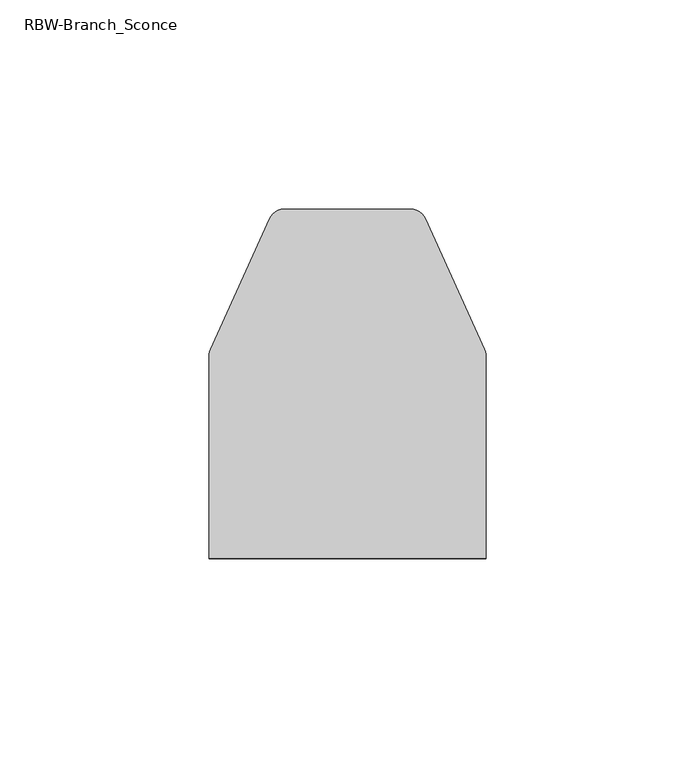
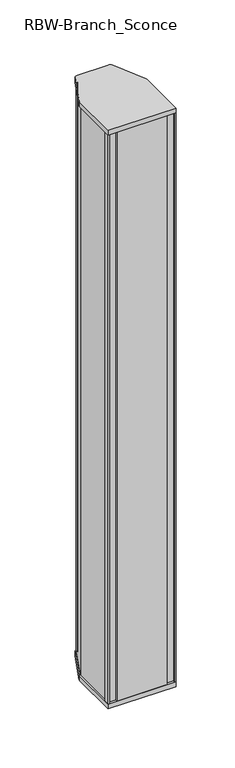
"""IFC4 building model written with IfcOpenShell, lengths in millimetres: light fixture geometry, RBW-Branch_Sconce : BRES-M."""

from ifc_helpers import new_model, si_unit, point, frame, frame_2d, origin, place, context, project, spatial, polyline, circle_curve, trimmed, segment, composite_curve, outline, extrude, source, transform, mapped, element, save
from ifc_brep_helpers import plane_surface, cylinder_surface, revolved_surface, advanced_brep


def rbw_branch_sconce_70b09beb(model_context):
    return source(origin(), model_context, "Body", "SolidModel", [
        extrude(outline(composite_curve([segment(trimmed(circle_curve(frame_2d((-29.1703125, 224.5714396)), 3.96875), [point((-33.1390625, 224.5714396))], [point((-32.7874435, 226.2046388))], False, "CARTESIAN"), True, "CONTINUOUS"), segment(polyline([(-32.7874435, 226.2046388), (-18.6829515, 257.442588)]), True, "CONTINUOUS"), segment(trimmed(circle_curve(frame_2d((-15.0658205, 255.8093887)), 3.96875), [point((-18.6829515, 257.442588))], [point((-15.0658205, 259.7781387))], False, "CARTESIAN"), True, "CONTINUOUS"), segment(polyline([(-15.0658205, 259.7781387), (15.0658205, 259.7781387)]), True, "CONTINUOUS"), segment(trimmed(circle_curve(frame_2d((15.0658205, 255.8093887)), 3.96875), [point((15.0658205, 259.7781387))], [point((18.6829515, 257.442588))], False, "CARTESIAN"), True, "CONTINUOUS"), segment(polyline([(18.6829515, 257.442588), (32.7874435, 226.2046388)]), True, "CONTINUOUS"), segment(trimmed(circle_curve(frame_2d((29.1703125, 224.5714396)), 3.96875), [point((32.7874435, 226.2046388))], [point((33.1390625, 224.5714396))], False, "CARTESIAN"), True, "CONTINUOUS"), segment(polyline([(33.1390625, 224.5714396), (33.1390625, 176.2125), (-33.1390625, 176.2125), (-33.1390625, 224.5714396)]), True, "CONTINUOUS")], self_intersect=False)), frame((0.0, 0.0, 2549.2273437), z_axis=(0.0, 0.0, 1.0), x_axis=(1.0, 0.0, 0.0)), (0.0, 0.0, 1.0), 4.7625),
        extrude(outline(composite_curve([segment(trimmed(circle_curve(frame_2d((-29.1703125, 224.5714396)), 3.96875), [point((-33.1390625, 224.5714396))], [point((-32.7874435, 226.2046388))], False, "CARTESIAN"), True, "CONTINUOUS"), segment(polyline([(-32.7874435, 226.2046388), (-18.6829515, 257.442588)]), True, "CONTINUOUS"), segment(trimmed(circle_curve(frame_2d((-15.0658205, 255.8093887)), 3.96875), [point((-18.6829515, 257.442588))], [point((-15.0658205, 259.7781387))], False, "CARTESIAN"), True, "CONTINUOUS"), segment(polyline([(-15.0658205, 259.7781387), (15.0658205, 259.7781387)]), True, "CONTINUOUS"), segment(trimmed(circle_curve(frame_2d((15.0658205, 255.8093887)), 3.96875), [point((15.0658205, 259.7781387))], [point((18.6829515, 257.442588))], False, "CARTESIAN"), True, "CONTINUOUS"), segment(polyline([(18.6829515, 257.442588), (32.7874435, 226.2046388)]), True, "CONTINUOUS"), segment(trimmed(circle_curve(frame_2d((29.1703125, 224.5714396)), 3.96875), [point((32.7874435, 226.2046388))], [point((33.1390625, 224.5714396))], False, "CARTESIAN"), True, "CONTINUOUS"), segment(polyline([(33.1390625, 224.5714396), (33.1390625, 176.2125), (-33.1390625, 176.2125), (-33.1390625, 224.5714396)]), True, "CONTINUOUS")], self_intersect=False)), frame((0.0, 0.0, 1955.8), z_axis=(0.0, 0.0, 1.0), x_axis=(1.0, 0.0, 0.0)), (0.0, 0.0, 1.0), 4.7625),
        extrude(outline(polyline([(24.6399969, 177.7596923), (24.6399969, 176.2125), (-24.6399969, 176.2125), (-24.6399969, 177.7596923), (24.6399969, 177.7596923)])), frame((0.0, 0.0, 1960.5625), z_axis=(0.0, 0.0, 1.0), x_axis=(1.0, 0.0, 0.0)), (0.0, 0.0, 1.0), 588.6648437),
        extrude(outline(composite_curve([segment(polyline([(-31.110477, 179.9808985), (-31.110477, 224.021969)]), True, "CONTINUOUS"), segment(trimmed(circle_curve(frame_2d((-27.5248794, 224.021969)), 3.5855977), [point((-31.110477, 224.021969))], [point((-30.7964256, 225.4894485))], False, "CARTESIAN"), True, "CONTINUOUS"), segment(polyline([(-30.7964256, 225.4894485), (-16.8462004, 256.5895809)]), True, "CONTINUOUS"), segment(trimmed(circle_curve(frame_2d((-15.0356307, 255.7774347)), 1.984375), [point((-16.8462004, 256.5895809))], [point((-15.0356307, 257.7618097))], False, "CARTESIAN"), True, "CONTINUOUS"), segment(polyline([(-15.0356307, 257.7618097), (15.0356307, 257.7618097)]), True, "CONTINUOUS"), segment(trimmed(circle_curve(frame_2d((15.0356307, 255.7774347)), 1.984375), [point((15.0356307, 257.7618097))], [point((16.8462004, 256.5895809))], False, "CARTESIAN"), True, "CONTINUOUS"), segment(polyline([(16.8462004, 256.5895809), (30.7964256, 225.4894485)]), True, "CONTINUOUS"), segment(trimmed(circle_curve(frame_2d((27.5248794, 224.021969)), 3.5855977), [point((30.7964256, 225.4894485))], [point((31.110477, 224.021969))], False, "CARTESIAN"), True, "CONTINUOUS"), segment(polyline([(31.110477, 224.021969), (31.110477, 179.9808985), (30.1182895, 179.9808985), (30.1182895, 224.021969)]), True, "CONTINUOUS"), segment(trimmed(circle_curve(frame_2d((27.3264419, 224.021969)), 2.7918477), [point((30.1182895, 224.021969))], [point((29.8737602, 225.16459))], True, "CARTESIAN"), True, "CONTINUOUS"), segment(polyline([(29.8737602, 225.16459), (15.923535, 256.2647224)]), True, "CONTINUOUS"), segment(trimmed(circle_curve(frame_2d((14.8371932, 255.7774347)), 1.190625), [point((15.923535, 256.2647224))], [point((14.8371932, 256.9680597))], True, "CARTESIAN"), True, "CONTINUOUS"), segment(polyline([(14.8371932, 256.9680597), (-14.8371932, 256.9680597)]), True, "CONTINUOUS"), segment(trimmed(circle_curve(frame_2d((-14.8371932, 255.7774347)), 1.190625), [point((-14.8371932, 256.9680597))], [point((-15.923535, 256.2647224))], True, "CARTESIAN"), True, "CONTINUOUS"), segment(polyline([(-15.923535, 256.2647224), (-29.8737602, 225.16459)]), True, "CONTINUOUS"), segment(trimmed(circle_curve(frame_2d((-27.3264419, 224.021969)), 2.7918477), [point((-29.8737602, 225.16459))], [point((-30.1182895, 224.021969))], True, "CARTESIAN"), True, "CONTINUOUS"), segment(polyline([(-30.1182895, 224.021969), (-30.1182895, 179.9808985), (-31.110477, 179.9808985)]), True, "CONTINUOUS")], self_intersect=False)), frame((0.0, 0.0, 1960.5625), z_axis=(0.0, 0.0, 1.0), x_axis=(1.0, 0.0, 0.0)), (0.0, 0.0, 1.0), 588.6648437),
        extrude(outline(polyline([(-33.1390625, 176.2125), (-33.1390625, 181.3017242), (-32.0194247, 181.3017242), (-32.0194247, 179.5714034), (-30.0957715, 179.5714034), (-30.0957715, 222.1084753), (30.0957715, 222.1084753), (30.0957715, 179.5714034), (32.0194247, 179.5714034), (32.0194247, 181.3017242), (33.1390625, 181.3017242), (33.1390625, 176.2125), (31.8158534, 176.2125), (31.8158534, 178.2482285), (17.3478991, 178.2482285), (17.3478991, 179.5714034), (28.7725647, 179.5714034), (28.7725647, 220.8148148), (-28.7725647, 220.8148148), (-28.7725647, 179.5714034), (-17.3478991, 179.5714034), (-17.3478991, 178.2482285), (-31.8158534, 178.2482285), (-31.8158534, 176.2125), (-33.1390625, 176.2125)])), frame((0.0, 0.0, 1960.5625), z_axis=(0.0, 0.0, 1.0), x_axis=(1.0, 0.0, 0.0)), (0.0, 0.0, 1.0), 588.6648437),
        advanced_brep(
        [(-27.2864128, 224.2551117, 2549.2273437), (-27.2864128, 222.1084753, 2549.2273437), (-25.6989128, 222.1084753, 2549.2273437), (-25.6989128, 224.0609321, 2549.2273437), (-13.4703808, 251.1441484, 2549.2273437), (-12.3155675, 251.8290085, 2549.2273437), (12.3155675, 251.8290085, 2549.2273437), (13.4153876, 251.1182122, 2549.2273437), (25.6989128, 223.8524826, 2549.2273437), (25.6989128, 222.1084753, 2549.2273437), (27.2864128, 222.1084753, 2549.2273437), (27.2864128, 224.194265, 2549.2273437), (14.862775, 251.7703059, 2549.2273437), (12.3155675, 253.4165085, 2549.2273437), (-12.3155675, 253.4165085, 2549.2273437), (-14.8618241, 251.7724141, 2549.2273437), (-27.2864128, 224.2551117, 1960.5625), (-14.8618241, 251.7724141, 1960.5625), (-12.3155675, 253.4165085, 1960.5625), (12.3155675, 253.4165085, 1960.5625), (14.862775, 251.7703059, 1960.5625), (27.2864128, 224.194265, 1960.5625), (27.2864128, 222.1084753, 1960.5625), (25.6989128, 222.1084753, 1960.5625), (25.6989128, 223.8524826, 1960.5625), (13.4153876, 251.1182122, 1960.5625), (12.3155675, 251.8290085, 1960.5625), (-12.3155675, 251.8290085, 1960.5625), (-13.4149733, 251.1191309, 1960.5625), (-25.6989128, 224.0609321, 1960.5625), (-25.6989128, 222.1084753, 1960.5625), (-27.2864128, 222.1084753, 1960.5625)],
        [
            (0, 1),
            (1, 2),
            (2, 3),
            (3, 4),
            (4, 5, circle_curve(frame((-12.3155675, 250.6227305, 2549.2273437), z_axis=(0.0, 0.0, -1.0), x_axis=(0.0, 1.0, 0.0)), 1.2062779)),
            (5, 6),
            (6, 7, circle_curve(frame((12.3155675, 250.6227305, 2549.2273437), z_axis=(0.0, 0.0, -1.0), x_axis=(0.0, 1.0, 0.0)), 1.2062779)),
            (7, 8),
            (8, 9),
            (9, 10),
            (10, 11),
            (11, 12),
            (12, 13, circle_curve(frame((12.3155675, 250.6227305, 2549.2273437), z_axis=(0.0, 0.0, 1.0), x_axis=(0.0, 1.0, 0.0)), 2.7937779)),
            (13, 14),
            (14, 15, circle_curve(frame((-12.3155675, 250.6227305, 2549.2273437), z_axis=(0.0, 0.0, 1.0), x_axis=(0.0, 1.0, 0.0)), 2.7937779)),
            (15, 0),
            (16, 17),
            (17, 18, circle_curve(frame((-12.3155675, 250.6227305, 1960.5625), z_axis=(0.0, 0.0, -1.0), x_axis=(0.0, 1.0, 0.0)), 2.7937779)),
            (18, 19),
            (19, 20, circle_curve(frame((12.3155675, 250.6227305, 1960.5625), z_axis=(0.0, 0.0, -1.0), x_axis=(0.0, 1.0, 0.0)), 2.7937779)),
            (20, 21),
            (21, 22),
            (22, 23),
            (23, 24),
            (24, 25),
            (25, 26, circle_curve(frame((12.3155675, 250.6227305, 1960.5625), z_axis=(0.0, 0.0, 1.0), x_axis=(0.0, 1.0, 0.0)), 1.2062779)),
            (26, 27),
            (27, 28, circle_curve(frame((-12.3155675, 250.6227305, 1960.5625), z_axis=(0.0, 0.0, 1.0), x_axis=(0.0, 1.0, 0.0)), 1.2062779)),
            (28, 29),
            (29, 30),
            (30, 31),
            (31, 16),
            (0, 16),
            (31, 1),
            (30, 2),
            (29, 3),
            (4, 28),
            (27, 5),
            (26, 6),
            (25, 7),
            (24, 8),
            (23, 9),
            (22, 10),
            (21, 11),
            (20, 12),
            (19, 13),
            (18, 14),
            (17, 15),
        ],
        [
            plane_surface(frame((-27.2864128, 222.1084753, 2549.2273437), z_axis=(0.0, 0.0, 1.0), x_axis=(0.0, -1.0, 0.0))),
            plane_surface(frame((-27.2864128, 222.1084753, 1960.5625), z_axis=(0.0, 0.0, -1.0), x_axis=(0.0, 1.0, 0.0))),
            plane_surface(frame((-27.2864128, 224.2551117, 2549.2273437), z_axis=(-1.0, 0.0, 0.0), x_axis=(0.0, 0.0, -1.0))),
            plane_surface(frame((-27.2864128, 222.1084753, 2549.2273437), z_axis=(0.0, -1.0, 0.0), x_axis=(0.0, 0.0, -1.0))),
            plane_surface(frame((-25.6989128, 222.1084753, 2549.2273437), z_axis=(1.0, 0.0, 0.0), x_axis=(0.0, 0.0, -1.0))),
            revolved_surface(polyline([(-12.3155675, 251.8290084, 1960.5625), (-12.3155675, 251.8290084, 2549.2273437)]), (-12.3155675, 250.6227305, 1960.5625), (0.0, 0.0, -1.0)),
            plane_surface(frame((-12.3155675, 251.8290085, 2549.2273437), z_axis=(0.0, -1.0, 0.0), x_axis=(0.0, 0.0, -1.0))),
            revolved_surface(polyline([(12.3155675, 251.8290084, 1960.5625), (12.3155675, 251.8290084, 2549.2273437)]), (12.3155675, 250.6227305, 1960.5625), (0.0, 0.0, -1.0)),
            plane_surface(frame((13.4153876, 251.1182122, 2549.2273437), z_axis=(-0.9117468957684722, -0.41075247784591, 0.0), x_axis=(0.0, 0.0, -1.0))),
            plane_surface(frame((25.6989128, 223.8524826, 2549.2273437), z_axis=(-1.0, 0.0, 0.0), x_axis=(0.0, 0.0, -1.0))),
            plane_surface(frame((25.6989128, 222.1084753, 2549.2273437), z_axis=(0.0, -1.0, 0.0), x_axis=(0.0, 0.0, -1.0))),
            plane_surface(frame((27.2864128, 222.1084753, 2549.2273437), z_axis=(1.0, 0.0, 0.0), x_axis=(0.0, 0.0, -1.0))),
            plane_surface(frame((27.2864128, 224.194265, 2549.2273437), z_axis=(0.911743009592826, 0.41076110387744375, 0.0), x_axis=(0.0, 0.0, -1.0))),
            cylinder_surface(frame((12.3155675, 250.6227305, 1960.5625), z_axis=(0.0, 0.0, 1.0), x_axis=(0.0, 1.0, 0.0)), 2.7937779),
            plane_surface(frame((12.3155675, 253.4165085, 2549.2273437), z_axis=(0.0, 1.0, 0.0), x_axis=(0.0, 0.0, -1.0))),
            cylinder_surface(frame((-12.3155675, 250.6227305, 1960.5625), z_axis=(0.0, 0.0, 1.0), x_axis=(0.0, 1.0, 0.0)), 2.7937779),
            plane_surface(frame((-25.6989128, 224.0609321, 2549.2273437), z_axis=(0.9114033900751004, -0.41151410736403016, 0.0), x_axis=(0.0, 0.0, -1.0))),
            plane_surface(frame((-14.8618241, 251.7724141, 2549.2273437), z_axis=(-0.911402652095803, 0.41151574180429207, 0.0), x_axis=(0.0, 0.0, -1.0))),
        ],
        [
            (0, [[1, 2, 3, 4, 5, 6, 7, 8, 9, 10, 11, 12, 13, 14, 15, 16]]),
            (1, [[17, 18, 19, 20, 21, 22, 23, 24, 25, 26, 27, 28, 29, 30, 31, 32]]),
            (2, [[-1, 33, -32, 34]]),
            (3, [[-2, -34, -31, 35]]),
            (4, [[-3, -35, -30, 36]]),
            (5, [[-5, 37, -28, 38]]),
            (6, [[-6, -38, -27, 39]]),
            (7, [[-7, -39, -26, 40]]),
            (8, [[-8, -40, -25, 41]]),
            (9, [[-9, -41, -24, 42]]),
            (10, [[-10, -42, -23, 43]]),
            (11, [[-11, -43, -22, 44]]),
            (12, [[-12, -44, -21, 45]]),
            (13, [[-13, -45, -20, 46]]),
            (14, [[-14, -46, -19, 47]]),
            (15, [[-15, -47, -18, 48]]),
            (16, [[-4, -36, -29, -37]]),
            (17, [[-16, -48, -17, -33]]),
        ],
    ),
        extrude(outline(composite_curve([segment(trimmed(circle_curve(frame_2d((-27.6240981, 224.2173149)), 4.3793477), [point((-32.0034458, 224.2173149))], [point((-31.6198722, 226.0096529))], False, "CARTESIAN"), True, "CONTINUOUS"), segment(polyline([(-31.6198722, 226.0096529), (-17.669647, 257.1097853)]), True, "CONTINUOUS"), segment(trimmed(circle_curve(frame_2d((-15.1348494, 255.9727806)), 2.778125), [point((-17.669647, 257.1097853))], [point((-15.1348494, 258.7509056))], False, "CARTESIAN"), True, "CONTINUOUS"), segment(polyline([(-15.1348494, 258.7509056), (15.1348494, 258.7509056)]), True, "CONTINUOUS"), segment(trimmed(circle_curve(frame_2d((15.1348494, 255.9727806)), 2.778125), [point((15.1348494, 258.7509056))], [point((17.669647, 257.1097853))], False, "CARTESIAN"), True, "CONTINUOUS"), segment(polyline([(17.669647, 257.1097853), (31.6198722, 226.0096529)]), True, "CONTINUOUS"), segment(trimmed(circle_curve(frame_2d((27.6240981, 224.2173149)), 4.3793477), [point((31.6198722, 226.0096529))], [point((32.0034458, 224.2173149))], False, "CARTESIAN"), True, "CONTINUOUS"), segment(polyline([(32.0034458, 224.2173149), (32.0034458, 179.9778069), (31.2096958, 179.9778069), (31.2096958, 224.2173149)]), True, "CONTINUOUS"), segment(trimmed(circle_curve(frame_2d((27.6240981, 224.2173149)), 3.5855977), [point((31.2096958, 224.2173149))], [point((30.8956443, 225.6847944))], True, "CARTESIAN"), True, "CONTINUOUS"), segment(polyline([(30.8956443, 225.6847944), (16.9454191, 256.7849268)]), True, "CONTINUOUS"), segment(trimmed(circle_curve(frame_2d((15.1348494, 255.9727806)), 1.984375), [point((16.9454191, 256.7849268))], [point((15.1348494, 257.9571556))], True, "CARTESIAN"), True, "CONTINUOUS"), segment(polyline([(15.1348494, 257.9571556), (-15.1348494, 257.9571556)]), True, "CONTINUOUS"), segment(trimmed(circle_curve(frame_2d((-15.1348494, 255.9727806)), 1.984375), [point((-15.1348494, 257.9571556))], [point((-16.9454191, 256.7849268))], True, "CARTESIAN"), True, "CONTINUOUS"), segment(polyline([(-16.9454191, 256.7849268), (-30.8956443, 225.6847944)]), True, "CONTINUOUS"), segment(trimmed(circle_curve(frame_2d((-27.6240981, 224.2173149)), 3.5855977), [point((-30.8956443, 225.6847944))], [point((-31.2096958, 224.2173149))], True, "CARTESIAN"), True, "CONTINUOUS"), segment(polyline([(-31.2096958, 224.2173149), (-31.2096958, 179.9778069), (-32.0034458, 179.9778069), (-32.0034458, 224.2173149)]), True, "CONTINUOUS")], self_intersect=False)), frame((0.0, 0.0, 1960.5625), z_axis=(0.0, 0.0, 1.0), x_axis=(1.0, 0.0, 0.0)), (0.0, 0.0, 1.0), 588.6648437),
    ])


if __name__ == "__main__":
    model = new_model("IFC4")
    model_context = context("Model", 3, world=origin())
    ifc_project = project(units=[si_unit("LENGTHUNIT", "METRE", prefix="MILLI")], contexts=[model_context])
    site = spatial("IfcSite", under=ifc_project)
    building = spatial("IfcBuilding", under=site)
    placement = place(None, origin())
    rbw_branch_sconce_shape = rbw_branch_sconce_70b09beb(model_context)
    element("IfcLightFixture", 1, ObjectType="RBW-Branch_Sconce : BRES-M", at=placement, inside=building, context=model_context, shape_type="MappedRepresentation", body=[
        mapped(rbw_branch_sconce_shape, transform((0.0, 0.0, 0.0), x_axis=(1.0, 0.0, 0.0), y_axis=(0.0, 1.0, 0.0), z_axis=(0.0, 0.0, 1.0))),
    ])
    save(model, "model.ifc")
